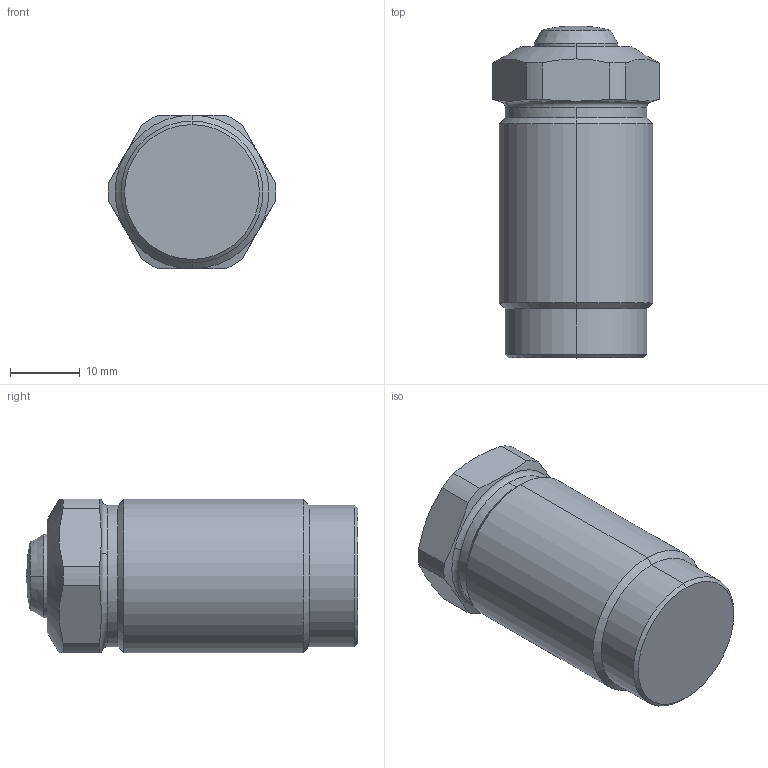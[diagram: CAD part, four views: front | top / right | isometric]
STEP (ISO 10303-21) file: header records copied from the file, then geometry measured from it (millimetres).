
FILE_DESCRIPTION((' '),'2;1');
FILE_NAME( 'CMC03-15R.X_T.stp', '2024-08-27T13:58:37', (' '), ('--- Datakit www.datakit.com---'), ' Datakit CrossCadWare V2024.1 Dec 21 2023', 'Mastercam 2025', ' ');
FILE_SCHEMA(('AUTOMOTIVE_DESIGN { 1 0 10303 214 1 1 1 1 }'));
Length unit declared in the file: millimetre
Products named in the file (1): CMC03-15R
Bounding box: 23.98 x 47.5 x 22 mm (x, y, z)
Volume: 16625.8 mm3; surface area: 5179 mm2
Topology: 2 solids, 2 shells, 42 faces, 102 edges, 63 vertices
Faces by surface type: cylinder 16, cone 12, plane 10, torus 2, sphere 2
Entity records: 1308 total; most frequent: CARTESIAN_POINT 298, DIRECTION 220, ORIENTED_EDGE 200, EDGE_CURVE 100, AXIS2_PLACEMENT_3D 93, VERTEX_POINT 63, CIRCLE 50, EDGE_LOOP 43
